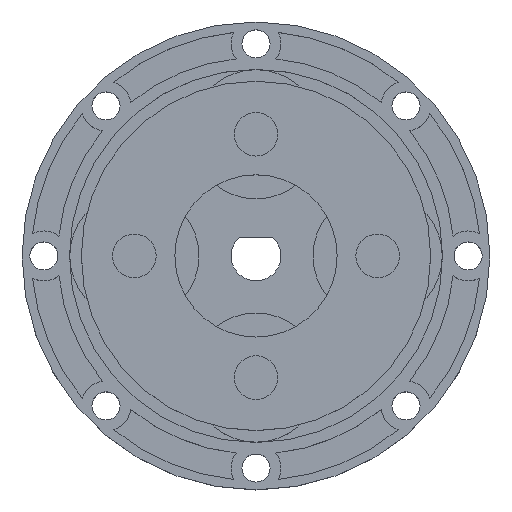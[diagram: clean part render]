
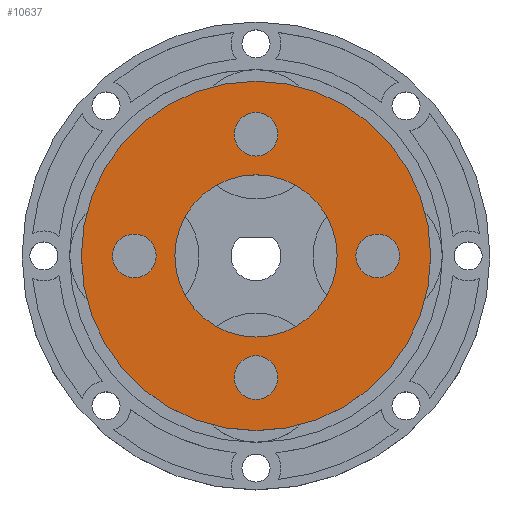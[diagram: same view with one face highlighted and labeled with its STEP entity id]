
A CAD part, top view. The second image highlights one B-rep face of the part: STEP entity #10637.
In plain terms, the highlighted planar face has unit normal (0, 0, 1).
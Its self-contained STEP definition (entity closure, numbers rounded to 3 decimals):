
#123 = ORIENTED_EDGE ( 'NONE', *, *, #292, .T. ) ;
#128 = EDGE_CURVE ( 'NONE', #2892, #6766, #2358, .T. ) ;
#163 = DIRECTION ( 'NONE',  ( 0., 0., 1. ) ) ;
#220 = DIRECTION ( 'NONE',  ( 0., -1., 0. ) ) ;
#274 = ORIENTED_EDGE ( 'NONE', *, *, #4740, .T. ) ;
#292 = EDGE_CURVE ( 'NONE', #1059, #1205, #6929, .T. ) ;
#390 = EDGE_LOOP ( 'NONE', ( #6882, #6529 ) ) ;
#406 = VERTEX_POINT ( 'NONE', #9484 ) ;
#694 = AXIS2_PLACEMENT_3D ( 'NONE', #8045, #1028, #220 ) ;
#724 = DIRECTION ( 'NONE',  ( 1., 0., 0. ) ) ;
#740 = EDGE_LOOP ( 'NONE', ( #1448, #3307 ) ) ;
#818 = VERTEX_POINT ( 'NONE', #6680 ) ;
#961 = FACE_BOUND ( 'NONE', #9155, .T. ) ;
#962 = DIRECTION ( 'NONE',  ( 1., 0., 0. ) ) ;
#1028 = DIRECTION ( 'NONE',  ( 0., 0., 1. ) ) ;
#1059 = VERTEX_POINT ( 'NONE', #1239 ) ;
#1065 = CARTESIAN_POINT ( 'NONE',  ( 0., 0., 8.35 ) ) ;
#1119 = CARTESIAN_POINT ( 'NONE',  ( -19.5, 3.5, 8.35 ) ) ;
#1205 = VERTEX_POINT ( 'NONE', #2218 ) ;
#1206 = ORIENTED_EDGE ( 'NONE', *, *, #2093, .F. ) ;
#1222 = CIRCLE ( 'NONE', #6881, 3.5 ) ;
#1239 = CARTESIAN_POINT ( 'NONE',  ( -28., 0., 8.35 ) ) ;
#1448 = ORIENTED_EDGE ( 'NONE', *, *, #6361, .F. ) ;
#1455 = AXIS2_PLACEMENT_3D ( 'NONE', #2359, #5785, #3204 ) ;
#1557 = CIRCLE ( 'NONE', #9401, 3.5 ) ;
#1690 = CIRCLE ( 'NONE', #9704, 3.5 ) ;
#1867 = FACE_BOUND ( 'NONE', #9154, .T. ) ;
#1911 = DIRECTION ( 'NONE',  ( 1., 0., 0. ) ) ;
#1933 = DIRECTION ( 'NONE',  ( 0., -1., 0. ) ) ;
#1947 = DIRECTION ( 'NONE',  ( 0., 1., 0. ) ) ;
#2020 = DIRECTION ( 'NONE',  ( 0., 0., 1. ) ) ;
#2030 = DIRECTION ( 'NONE',  ( 0., 0., 1. ) ) ;
#2093 = EDGE_CURVE ( 'NONE', #406, #11069, #8635, .T. ) ;
#2116 = EDGE_CURVE ( 'NONE', #6766, #2892, #5169, .T. ) ;
#2153 = EDGE_CURVE ( 'NONE', #7976, #4814, #1690, .T. ) ;
#2218 = CARTESIAN_POINT ( 'NONE',  ( 28., 0., 8.35 ) ) ;
#2227 = CARTESIAN_POINT ( 'NONE',  ( -3.5, 19.5, 8.35 ) ) ;
#2316 = DIRECTION ( 'NONE',  ( -1., 0., 0. ) ) ;
#2331 = VERTEX_POINT ( 'NONE', #10088 ) ;
#2356 = AXIS2_PLACEMENT_3D ( 'NONE', #9272, #3221, #2316 ) ;
#2358 = CIRCLE ( 'NONE', #9829, 13. ) ;
#2359 = CARTESIAN_POINT ( 'NONE',  ( 0., 0., 8.35 ) ) ;
#2568 = DIRECTION ( 'NONE',  ( 0., 0., 1. ) ) ;
#2628 = DIRECTION ( 'NONE',  ( 1., 0., 0. ) ) ;
#2660 = DIRECTION ( 'NONE',  ( 0., 0., 1. ) ) ;
#2680 = DIRECTION ( 'NONE',  ( 0., 1., 0. ) ) ;
#2712 = CARTESIAN_POINT ( 'NONE',  ( 0., 19.5, 8.35 ) ) ;
#2892 = VERTEX_POINT ( 'NONE', #10361 ) ;
#3204 = DIRECTION ( 'NONE',  ( 1., 0., 0. ) ) ;
#3221 = DIRECTION ( 'NONE',  ( 0., 0., 1. ) ) ;
#3307 = ORIENTED_EDGE ( 'NONE', *, *, #5209, .F. ) ;
#3339 = AXIS2_PLACEMENT_3D ( 'NONE', #6909, #163, #2628 ) ;
#3591 = DIRECTION ( 'NONE',  ( 0., 0., 1. ) ) ;
#4324 = CIRCLE ( 'NONE', #7240, 3.5 ) ;
#4357 = CIRCLE ( 'NONE', #2356, 3.5 ) ;
#4438 = PLANE ( 'NONE',  #9139 ) ;
#4538 = CARTESIAN_POINT ( 'NONE',  ( 0., -19.5, 8.35 ) ) ;
#4582 = VERTEX_POINT ( 'NONE', #2227 ) ;
#4740 = EDGE_CURVE ( 'NONE', #1205, #1059, #6288, .T. ) ;
#4814 = VERTEX_POINT ( 'NONE', #1119 ) ;
#4960 = ORIENTED_EDGE ( 'NONE', *, *, #128, .F. ) ;
#5169 = CIRCLE ( 'NONE', #3339, 13. ) ;
#5209 = EDGE_CURVE ( 'NONE', #2331, #4582, #1557, .T. ) ;
#5242 = VERTEX_POINT ( 'NONE', #6255 ) ;
#5360 = FACE_OUTER_BOUND ( 'NONE', #5421, .T. ) ;
#5421 = EDGE_LOOP ( 'NONE', ( #123, #274 ) ) ;
#5425 = CARTESIAN_POINT ( 'NONE',  ( -19.5, 0., 8.35 ) ) ;
#5429 = EDGE_LOOP ( 'NONE', ( #5549, #7524 ) ) ;
#5549 = ORIENTED_EDGE ( 'NONE', *, *, #2153, .F. ) ;
#5785 = DIRECTION ( 'NONE',  ( 0., 0., 1. ) ) ;
#6210 = FACE_BOUND ( 'NONE', #390, .T. ) ;
#6255 = CARTESIAN_POINT ( 'NONE',  ( 3.5, -19.5, 8.35 ) ) ;
#6288 = CIRCLE ( 'NONE', #9931, 28. ) ;
#6361 = EDGE_CURVE ( 'NONE', #4582, #2331, #4324, .T. ) ;
#6409 = DIRECTION ( 'NONE',  ( 1., 0., 0. ) ) ;
#6489 = EDGE_CURVE ( 'NONE', #5242, #818, #1222, .T. ) ;
#6529 = ORIENTED_EDGE ( 'NONE', *, *, #7823, .F. ) ;
#6680 = CARTESIAN_POINT ( 'NONE',  ( -3.5, -19.5, 8.35 ) ) ;
#6727 = AXIS2_PLACEMENT_3D ( 'NONE', #10572, #7320, #1947 ) ;
#6766 = VERTEX_POINT ( 'NONE', #9438 ) ;
#6881 = AXIS2_PLACEMENT_3D ( 'NONE', #4538, #7344, #7968 ) ;
#6882 = ORIENTED_EDGE ( 'NONE', *, *, #6489, .F. ) ;
#6902 = CARTESIAN_POINT ( 'NONE',  ( 0., 0., 8.35 ) ) ;
#6909 = CARTESIAN_POINT ( 'NONE',  ( 0., 0., 8.35 ) ) ;
#6929 = CIRCLE ( 'NONE', #1455, 28. ) ;
#6938 = CARTESIAN_POINT ( 'NONE',  ( -19.5, -3.5, 8.35 ) ) ;
#7065 = FACE_BOUND ( 'NONE', #740, .T. ) ;
#7094 = CIRCLE ( 'NONE', #6727, 3.5 ) ;
#7123 = EDGE_CURVE ( 'NONE', #11069, #406, #11088, .T. ) ;
#7240 = AXIS2_PLACEMENT_3D ( 'NONE', #2712, #2660, #724 ) ;
#7320 = DIRECTION ( 'NONE',  ( 0., 0., 1. ) ) ;
#7344 = DIRECTION ( 'NONE',  ( 0., 0., 1. ) ) ;
#7524 = ORIENTED_EDGE ( 'NONE', *, *, #8627, .F. ) ;
#7725 = AXIS2_PLACEMENT_3D ( 'NONE', #8682, #3591, #1933 ) ;
#7823 = EDGE_CURVE ( 'NONE', #818, #5242, #4357, .T. ) ;
#7968 = DIRECTION ( 'NONE',  ( -1., 0., 0. ) ) ;
#7976 = VERTEX_POINT ( 'NONE', #6938 ) ;
#8045 = CARTESIAN_POINT ( 'NONE',  ( 19.5, 0., 8.35 ) ) ;
#8122 = DIRECTION ( 'NONE',  ( 0., 0., 1. ) ) ;
#8199 = ORIENTED_EDGE ( 'NONE', *, *, #7123, .F. ) ;
#8236 = CARTESIAN_POINT ( 'NONE',  ( 0., 0., 8.35 ) ) ;
#8627 = EDGE_CURVE ( 'NONE', #4814, #7976, #7094, .T. ) ;
#8635 = CIRCLE ( 'NONE', #7725, 3.5 ) ;
#8682 = CARTESIAN_POINT ( 'NONE',  ( 19.5, 0., 8.35 ) ) ;
#8780 = FACE_BOUND ( 'NONE', #5429, .T. ) ;
#8879 = CARTESIAN_POINT ( 'NONE',  ( 0., 19.5, 8.35 ) ) ;
#8998 = DIRECTION ( 'NONE',  ( 1., 0., 0. ) ) ;
#9139 = AXIS2_PLACEMENT_3D ( 'NONE', #1065, #2030, #8998 ) ;
#9154 = EDGE_LOOP ( 'NONE', ( #1206, #8199 ) ) ;
#9155 = EDGE_LOOP ( 'NONE', ( #4960, #9731 ) ) ;
#9272 = CARTESIAN_POINT ( 'NONE',  ( 0., -19.5, 8.35 ) ) ;
#9401 = AXIS2_PLACEMENT_3D ( 'NONE', #8879, #2020, #1911 ) ;
#9438 = CARTESIAN_POINT ( 'NONE',  ( 13., 0., 8.35 ) ) ;
#9484 = CARTESIAN_POINT ( 'NONE',  ( 19.5, 3.5, 8.35 ) ) ;
#9704 = AXIS2_PLACEMENT_3D ( 'NONE', #5425, #10502, #2680 ) ;
#9731 = ORIENTED_EDGE ( 'NONE', *, *, #2116, .F. ) ;
#9829 = AXIS2_PLACEMENT_3D ( 'NONE', #8236, #8122, #6409 ) ;
#9931 = AXIS2_PLACEMENT_3D ( 'NONE', #6902, #2568, #962 ) ;
#10088 = CARTESIAN_POINT ( 'NONE',  ( 3.5, 19.5, 8.35 ) ) ;
#10361 = CARTESIAN_POINT ( 'NONE',  ( -13., 0., 8.35 ) ) ;
#10502 = DIRECTION ( 'NONE',  ( 0., 0., 1. ) ) ;
#10572 = CARTESIAN_POINT ( 'NONE',  ( -19.5, 0., 8.35 ) ) ;
#10637 = ADVANCED_FACE ( 'NONE', ( #8780, #6210, #1867, #7065, #5360, #961 ), #4438, .T. ) ;
#10645 = CARTESIAN_POINT ( 'NONE',  ( 19.5, -3.5, 8.35 ) ) ;
#11069 = VERTEX_POINT ( 'NONE', #10645 ) ;
#11088 = CIRCLE ( 'NONE', #694, 3.5 ) ;
